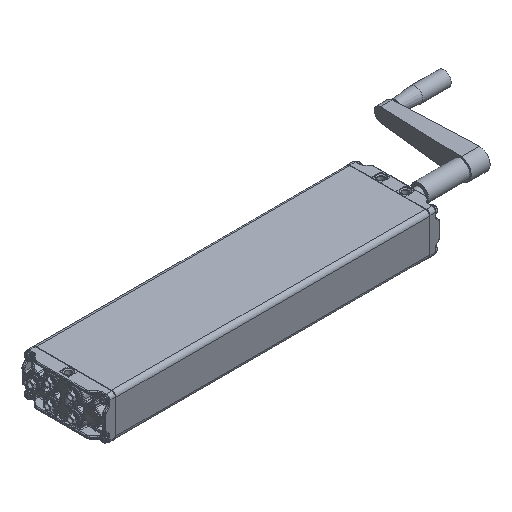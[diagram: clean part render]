
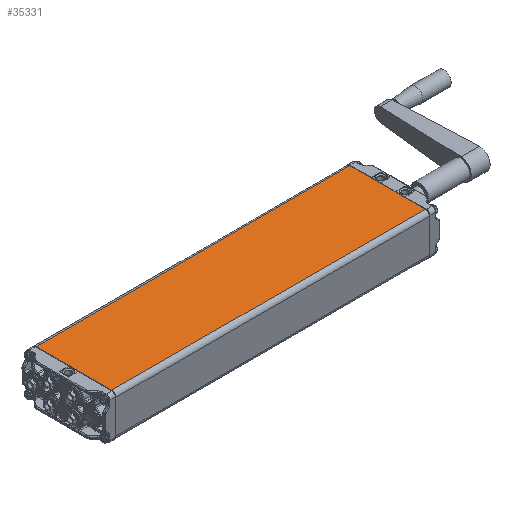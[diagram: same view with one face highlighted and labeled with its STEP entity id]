
A CAD part, isometric view. The second image highlights one B-rep face of the part: STEP entity #35331.
In plain terms, the highlighted planar face has unit normal (0, 0, 1).
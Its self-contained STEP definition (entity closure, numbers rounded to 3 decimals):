
#3673=LINE('',#75945,#5032);
#3674=LINE('',#75948,#5033);
#3675=LINE('',#75950,#5034);
#3676=LINE('',#75952,#5035);
#5032=VECTOR('',#43155,1000.);
#5033=VECTOR('',#43156,1000.);
#5034=VECTOR('',#43157,1000.);
#5035=VECTOR('',#43158,1000.);
#10657=ORIENTED_EDGE('',*,*,#16874,.T.);
#10658=ORIENTED_EDGE('',*,*,#16875,.T.);
#10659=ORIENTED_EDGE('',*,*,#16876,.T.);
#10660=ORIENTED_EDGE('',*,*,#16877,.T.);
#16874=EDGE_CURVE('',#20244,#20245,#3673,.F.);
#16875=EDGE_CURVE('',#20245,#20246,#3674,.T.);
#16876=EDGE_CURVE('',#20246,#20247,#3675,.T.);
#16877=EDGE_CURVE('',#20247,#20244,#3676,.F.);
#20244=VERTEX_POINT('',#75946);
#20245=VERTEX_POINT('',#75947);
#20246=VERTEX_POINT('',#75949);
#20247=VERTEX_POINT('',#75951);
#23933=EDGE_LOOP('',(#10657,#10658,#10659,#10660));
#26053=FACE_BOUND('',#23933,.T.);
#27242=PLANE('',#37788);
#35331=ADVANCED_FACE('',(#26053),#27242,.T.);
#37788=AXIS2_PLACEMENT_3D('',#75944,#43153,#43154);
#43153=DIRECTION('',(0.,0.,1.));
#43154=DIRECTION('',(1.,0.,0.));
#43155=DIRECTION('',(0.,-1.,0.));
#43156=DIRECTION('',(-1.,0.,0.));
#43157=DIRECTION('',(0.,-1.,0.));
#43158=DIRECTION('',(-1.,0.,0.));
#75944=CARTESIAN_POINT('',(60.,450.5,30.));
#75945=CARTESIAN_POINT('',(54.,450.5,30.));
#75946=CARTESIAN_POINT('',(54.,0.5,30.));
#75947=CARTESIAN_POINT('',(54.,450.,30.));
#75948=CARTESIAN_POINT('',(60.,450.,30.));
#75949=CARTESIAN_POINT('',(-54.,450.,30.));
#75950=CARTESIAN_POINT('',(-54.,450.5,30.));
#75951=CARTESIAN_POINT('',(-54.,0.5,30.));
#75952=CARTESIAN_POINT('',(54.,0.5,30.));
